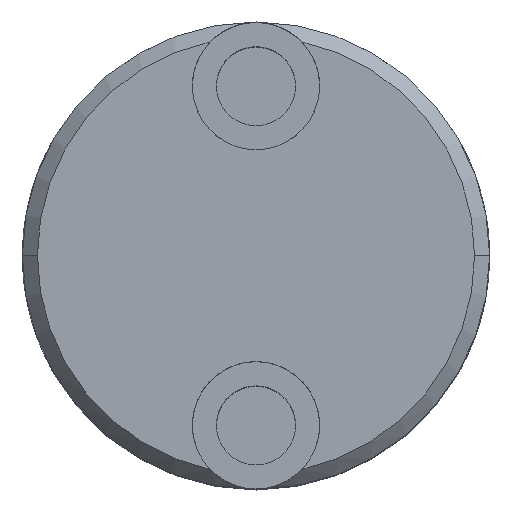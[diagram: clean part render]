
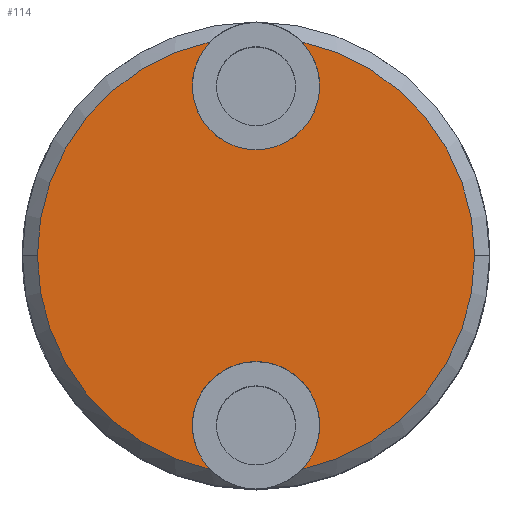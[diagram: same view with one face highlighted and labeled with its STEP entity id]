
A CAD part, top view. The second image highlights one B-rep face of the part: STEP entity #114.
In plain terms, the highlighted planar face has unit normal (0, 0, 1).
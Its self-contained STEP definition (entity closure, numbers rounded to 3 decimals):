
#114=ADVANCED_FACE('',(#173),#172,.T.);
#172=PLANE('',#562);
#173=FACE_OUTER_BOUND('',#563,.T.);
#559=CARTESIAN_POINT('',(34.8,-34.023,27.));
#560=DIRECTION('',(0.,0.,1.));
#561=DIRECTION('',(0.,1.,0.));
#562=AXIS2_PLACEMENT_3D('',#559,#560,#561);
#563=EDGE_LOOP('',(#837,#838,#839,#840,#841,#842,#843,#844));
#837=ORIENTED_EDGE('',*,*,#1016,.T.);
#838=ORIENTED_EDGE('',*,*,#1017,.T.);
#839=ORIENTED_EDGE('',*,*,#1018,.T.);
#840=ORIENTED_EDGE('',*,*,#1019,.T.);
#841=ORIENTED_EDGE('',*,*,#1020,.T.);
#842=ORIENTED_EDGE('',*,*,#1021,.T.);
#843=ORIENTED_EDGE('',*,*,#1022,.T.);
#844=ORIENTED_EDGE('',*,*,#1023,.T.);
#1016=EDGE_CURVE('',#1153,#1154,#1155,.T.);
#1017=EDGE_CURVE('',#1154,#1161,#1162,.T.);
#1018=EDGE_CURVE('',#1161,#1168,#1169,.T.);
#1019=EDGE_CURVE('',#1168,#1175,#1176,.T.);
#1020=EDGE_CURVE('',#1175,#1182,#1183,.T.);
#1021=EDGE_CURVE('',#1182,#1189,#1190,.T.);
#1022=EDGE_CURVE('',#1189,#1196,#1197,.T.);
#1023=EDGE_CURVE('',#1196,#1153,#1203,.T.);
#1153=VERTEX_POINT('',#1823);
#1154=VERTEX_POINT('',#1824);
#1155=CIRCLE('',#1828,29.);
#1161=VERTEX_POINT('',#1829);
#1162=CIRCLE('',#1833,29.);
#1168=VERTEX_POINT('',#1834);
#1169=CIRCLE('',#1838,8.45);
#1175=VERTEX_POINT('',#1839);
#1176=CIRCLE('',#1843,8.45);
#1182=VERTEX_POINT('',#1844);
#1183=CIRCLE('',#1848,29.);
#1189=VERTEX_POINT('',#1849);
#1190=CIRCLE('',#1853,29.);
#1196=VERTEX_POINT('',#1854);
#1197=CIRCLE('',#1858,8.45);
#1203=CIRCLE('',#1862,8.45);
#1823=CARTESIAN_POINT('',(6.095,-28.352,27.));
#1824=CARTESIAN_POINT('',(29.,0.,27.));
#1825=CARTESIAN_POINT('',(0.,0.,27.));
#1826=DIRECTION('',(0.,0.,1.));
#1827=DIRECTION('',(0.,-1.,0.));
#1828=AXIS2_PLACEMENT_3D('',#1825,#1826,#1827);
#1829=CARTESIAN_POINT('',(6.095,28.352,27.));
#1830=CARTESIAN_POINT('',(0.,0.,27.));
#1831=DIRECTION('',(0.,0.,1.));
#1832=DIRECTION('',(0.,-1.,0.));
#1833=AXIS2_PLACEMENT_3D('',#1830,#1831,#1832);
#1834=CARTESIAN_POINT('',(0.,14.05,27.));
#1835=CARTESIAN_POINT('',(0.,22.5,27.));
#1836=DIRECTION('',(0.,0.,-1.));
#1837=DIRECTION('',(0.,1.,0.));
#1838=AXIS2_PLACEMENT_3D('',#1835,#1836,#1837);
#1839=CARTESIAN_POINT('',(-6.095,28.352,27.));
#1840=CARTESIAN_POINT('',(0.,22.5,27.));
#1841=DIRECTION('',(0.,0.,-1.));
#1842=DIRECTION('',(0.,1.,0.));
#1843=AXIS2_PLACEMENT_3D('',#1840,#1841,#1842);
#1844=CARTESIAN_POINT('',(-29.,0.,27.));
#1845=CARTESIAN_POINT('',(0.,0.,27.));
#1846=DIRECTION('',(0.,0.,1.));
#1847=DIRECTION('',(0.,-1.,0.));
#1848=AXIS2_PLACEMENT_3D('',#1845,#1846,#1847);
#1849=CARTESIAN_POINT('',(-6.095,-28.352,27.));
#1850=CARTESIAN_POINT('',(0.,0.,27.));
#1851=DIRECTION('',(0.,0.,1.));
#1852=DIRECTION('',(0.,-1.,0.));
#1853=AXIS2_PLACEMENT_3D('',#1850,#1851,#1852);
#1854=CARTESIAN_POINT('',(0.,-14.05,27.));
#1855=CARTESIAN_POINT('',(0.,-22.5,27.));
#1856=DIRECTION('',(0.,0.,-1.));
#1857=DIRECTION('',(-0.721,-0.693,0.));
#1858=AXIS2_PLACEMENT_3D('',#1855,#1856,#1857);
#1859=CARTESIAN_POINT('',(0.,-22.5,27.));
#1860=DIRECTION('',(0.,0.,-1.));
#1861=DIRECTION('',(-0.721,-0.693,0.));
#1862=AXIS2_PLACEMENT_3D('',#1859,#1860,#1861);
